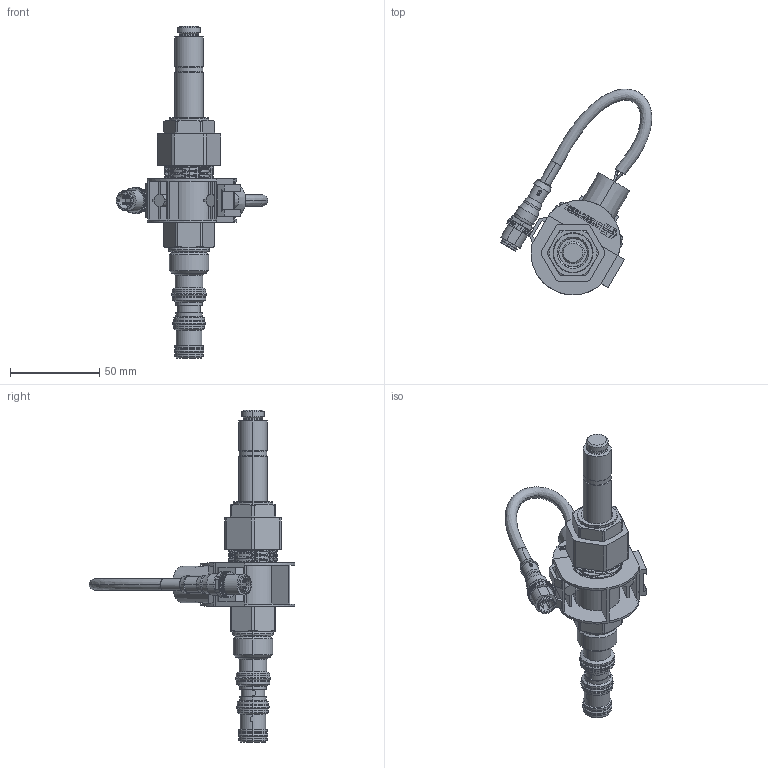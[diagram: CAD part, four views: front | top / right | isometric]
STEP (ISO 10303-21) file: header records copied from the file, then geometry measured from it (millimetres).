
FILE_DESCRIPTION((''),'2;1');
FILE_NAME('ASM0002_ASM','2021-06-24T13:51:04',('CY1'),(''),'CREO PARAMETRIC BY PTC INC, 2018020','CREO PARAMETRIC BY PTC INC, 2018020','');
FILE_SCHEMA(('CONFIG_CONTROL_DESIGN'));
Products named in the file (3): SV10-P40; PRT0004; ASM0002_ASM
Assembly tree (2 placements, depth 2):
  ASM0002_ASM
    SV10-P40
    PRT0004
Bounding box: 85.02 x 115.44 x 186.16 mm (x, y, z)
Volume: 97036.8 mm3; surface area: 41315.1 mm2
Topology: 2 solids, 2 shells, 1129 faces, 3131 edges, 2039 vertices
Faces by surface type: plane 512, cylinder 343, cone 82, bspline 78, extrusion 64, torus 38, revolution 12
Entity records: 45824 total; most frequent: CARTESIAN_POINT 17906, ORIENTED_EDGE 6252, DIRECTION 5093, EDGE_CURVE 3126, VERTEX_POINT 2037, VECTOR 1743, LINE 1679, AXIS2_PLACEMENT_3D 1669
